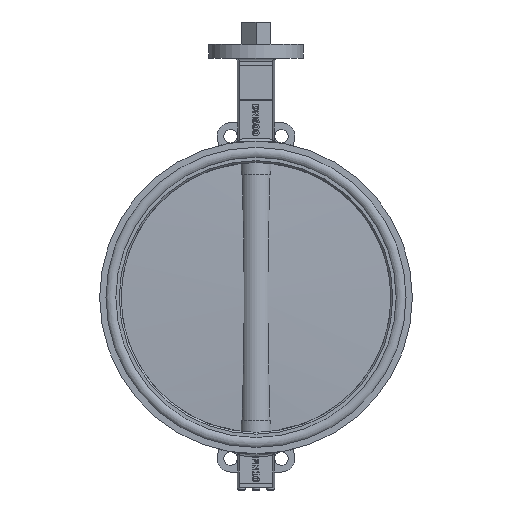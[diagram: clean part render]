
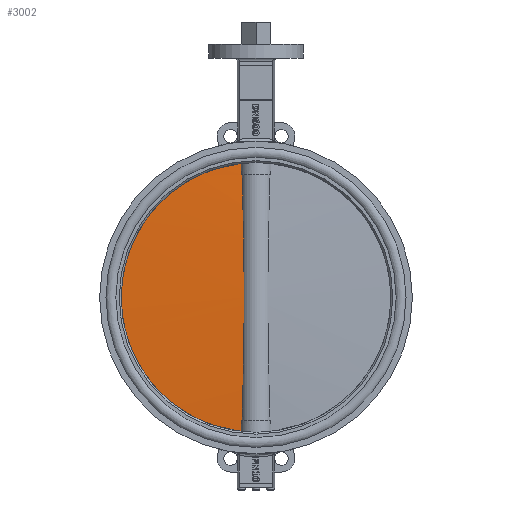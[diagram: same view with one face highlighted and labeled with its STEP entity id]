
A CAD part, left-side view. The second image highlights one B-rep face of the part: STEP entity #3002.
In plain terms, the highlighted spherical face has radius 6003.75 mm.
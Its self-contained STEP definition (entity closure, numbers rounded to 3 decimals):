
#3002=ADVANCED_FACE('',(#9397),#9399,.T.);
#9397=FACE_BOUND('',#9398,.T.);
#9398=EDGE_LOOP('',(#12470,#12471,#12472,#12473,#12474,#12475));
#9399=SPHERICAL_SURFACE('',#9400,6003.75);
#9400=AXIS2_PLACEMENT_3D('',#9401,#9402,#9403);
#9401=CARTESIAN_POINT('',(0.,-5980.75,0.));
#9402=DIRECTION('',(0.,-1.,0.));
#9403=DIRECTION('',(0.,0.,1.));
#12470=ORIENTED_EDGE('',*,*,#13671,.F.);
#12471=ORIENTED_EDGE('',*,*,#13683,.F.);
#12472=ORIENTED_EDGE('',*,*,#13684,.T.);
#12473=ORIENTED_EDGE('',*,*,#13685,.F.);
#12474=ORIENTED_EDGE('',*,*,#13654,.F.);
#12475=ORIENTED_EDGE('',*,*,#13682,.T.);
#13654=EDGE_CURVE('',#15461,#15462,#15463,.F.);
#13671=EDGE_CURVE('',#15494,#15479,#15496,.T.);
#13682=EDGE_CURVE('',#15461,#15479,#15511,.T.);
#13683=EDGE_CURVE('',#15512,#15494,#15513,.T.);
#13684=EDGE_CURVE('',#15512,#15514,#15515,.T.);
#13685=EDGE_CURVE('',#15462,#15514,#15516,.T.);
#15461=VERTEX_POINT('',#21629);
#15462=VERTEX_POINT('',#21630);
#15463=B_SPLINE_CURVE_WITH_KNOTS('',3,
(#21631,#21632,#21633,#21634,#21635,#21636,#21637,#21638,#21639,#21640,#21641,#21642,
#21643,#21644,#21645,#21646,#21647,#21648,#21649),
.UNSPECIFIED.,.F.,.F.,
(4,1,1,1,1,1,1,1,1,1,1,1,1,1,1,1,4),
(0.,0.047,0.094,0.141,0.188,0.234,
0.28,0.325,0.37,0.414,0.459,
0.505,0.552,0.6,0.683,0.816,
1.),
.UNSPECIFIED.);
#15479=VERTEX_POINT('',#21846);
#15494=VERTEX_POINT('',#22039);
#15496=B_SPLINE_CURVE_WITH_KNOTS('',3,
(#22044,#22045,#22046,#22047,#22048,#22049,#22050,#22051,#22052,#22053,#22054,#22055,
#22056,#22057,#22058,#22059,#22060,#22061,#22062),
.UNSPECIFIED.,.F.,.F.,
(4,1,1,1,1,1,1,1,1,1,1,1,1,1,1,1,4),
(0.,0.047,0.094,0.141,0.188,0.234,
0.28,0.325,0.37,0.414,0.459,
0.505,0.552,0.6,0.683,0.816,
1.),
.UNSPECIFIED.);
#15511=CIRCLE('',#22133,300.);
#15512=VERTEX_POINT('',#22137);
#15513=CIRCLE('',#22138,5997.538);
#15514=VERTEX_POINT('',#22142);
#15515=B_SPLINE_CURVE_WITH_KNOTS('',3,
(#22143,#22144,#22145,#22146,#22147,#22148,#22149,#22150,#22151,#22152,#22153,#22154,
#22155,#22156,#22157,#22158,#22159),
.UNSPECIFIED.,.F.,.F.,
(4,1,1,1,1,1,1,1,1,1,1,1,1,1,4),
(0.,0.072,0.142,0.209,0.293,0.372,
0.448,0.5,0.519,0.612,0.709,
0.792,0.859,0.929,1.),
.UNSPECIFIED.);
#15516=CIRCLE('',#22160,5997.538);
#21629=CARTESIAN_POINT('',(33.128,15.5,298.165));
#21630=CARTESIAN_POINT('',(32.54,16.699,273.05));
#21631=CARTESIAN_POINT('',(32.54,16.699,273.05));
#21632=CARTESIAN_POINT('',(32.549,16.681,273.446));
#21633=CARTESIAN_POINT('',(32.568,16.645,274.236));
#21634=CARTESIAN_POINT('',(32.596,16.591,275.419));
#21635=CARTESIAN_POINT('',(32.623,16.536,276.597));
#21636=CARTESIAN_POINT('',(32.651,16.482,277.768));
#21637=CARTESIAN_POINT('',(32.678,16.428,278.927));
#21638=CARTESIAN_POINT('',(32.705,16.375,280.076));
#21639=CARTESIAN_POINT('',(32.731,16.321,281.21));
#21640=CARTESIAN_POINT('',(32.758,16.268,282.334));
#21641=CARTESIAN_POINT('',(32.784,16.215,283.455));
#21642=CARTESIAN_POINT('',(32.811,16.162,284.584));
#21643=CARTESIAN_POINT('',(32.838,16.107,285.737));
#21644=CARTESIAN_POINT('',(32.865,16.05,286.916));
#21645=CARTESIAN_POINT('',(32.9,15.978,288.411));
#21646=CARTESIAN_POINT('',(32.952,15.871,290.627));
#21647=CARTESIAN_POINT('',(33.03,15.708,293.976));
#21648=CARTESIAN_POINT('',(33.092,15.577,296.629));
#21649=CARTESIAN_POINT('',(33.128,15.5,298.165));
#21846=CARTESIAN_POINT('',(33.128,15.5,-298.165));
#22039=CARTESIAN_POINT('',(32.54,16.699,-273.05));
#22044=CARTESIAN_POINT('',(32.54,16.699,-273.05));
#22045=CARTESIAN_POINT('',(32.549,16.681,-273.446));
#22046=CARTESIAN_POINT('',(32.568,16.645,-274.236));
#22047=CARTESIAN_POINT('',(32.596,16.591,-275.419));
#22048=CARTESIAN_POINT('',(32.623,16.536,-276.597));
#22049=CARTESIAN_POINT('',(32.651,16.482,-277.768));
#22050=CARTESIAN_POINT('',(32.678,16.428,-278.927));
#22051=CARTESIAN_POINT('',(32.705,16.375,-280.076));
#22052=CARTESIAN_POINT('',(32.731,16.321,-281.21));
#22053=CARTESIAN_POINT('',(32.758,16.268,-282.334));
#22054=CARTESIAN_POINT('',(32.784,16.215,-283.455));
#22055=CARTESIAN_POINT('',(32.811,16.162,-284.584));
#22056=CARTESIAN_POINT('',(32.838,16.107,-285.737));
#22057=CARTESIAN_POINT('',(32.865,16.05,-286.916));
#22058=CARTESIAN_POINT('',(32.9,15.978,-288.411));
#22059=CARTESIAN_POINT('',(32.952,15.871,-290.627));
#22060=CARTESIAN_POINT('',(33.03,15.708,-293.976));
#22061=CARTESIAN_POINT('',(33.092,15.577,-296.629));
#22062=CARTESIAN_POINT('',(33.128,15.5,-298.165));
#22133=AXIS2_PLACEMENT_3D('',#22134,#22135,#22136);
#22134=CARTESIAN_POINT('',(0.,15.5,0.));
#22135=DIRECTION('',(0.,1.,0.));
#22136=DIRECTION('',(0.11,0.,0.994));
#22137=CARTESIAN_POINT('',(30.754,16.709,-273.05));
#22138=AXIS2_PLACEMENT_3D('',#22139,#22140,#22141);
#22139=CARTESIAN_POINT('',(0.,-5980.75,-273.05));
#22140=DIRECTION('',(0.,0.,-1.));
#22141=DIRECTION('',(0.005,1.,0.));
#22142=CARTESIAN_POINT('',(30.754,16.709,273.05));
#22143=CARTESIAN_POINT('',(30.754,16.709,-273.05));
#22144=CARTESIAN_POINT('',(30.43,17.306,-259.976));
#22145=CARTESIAN_POINT('',(29.792,18.398,-234.198));
#22146=CARTESIAN_POINT('',(28.896,19.767,-196.079));
#22147=CARTESIAN_POINT('',(28.042,20.96,-155.828));
#22148=CARTESIAN_POINT('',(27.298,21.914,-113.82));
#22149=CARTESIAN_POINT('',(26.747,22.577,-70.428));
#22150=CARTESIAN_POINT('',(26.481,22.886,-32.736));
#22151=CARTESIAN_POINT('',(26.425,22.95,-6.048));
#22152=CARTESIAN_POINT('',(26.448,22.924,23.854));
#22153=CARTESIAN_POINT('',(26.646,22.696,61.903));
#22154=CARTESIAN_POINT('',(27.256,21.968,111.624));
#22155=CARTESIAN_POINT('',(28.058,20.937,156.663));
#22156=CARTESIAN_POINT('',(28.91,19.747,196.662));
#22157=CARTESIAN_POINT('',(29.8,18.386,234.5));
#22158=CARTESIAN_POINT('',(30.432,17.301,260.081));
#22159=CARTESIAN_POINT('',(30.754,16.709,273.05));
#22160=AXIS2_PLACEMENT_3D('',#22161,#22162,#22163);
#22161=CARTESIAN_POINT('',(0.,-5980.75,273.05));
#22162=DIRECTION('',(0.,0.,1.));
#22163=DIRECTION('',(0.005,1.,0.));
